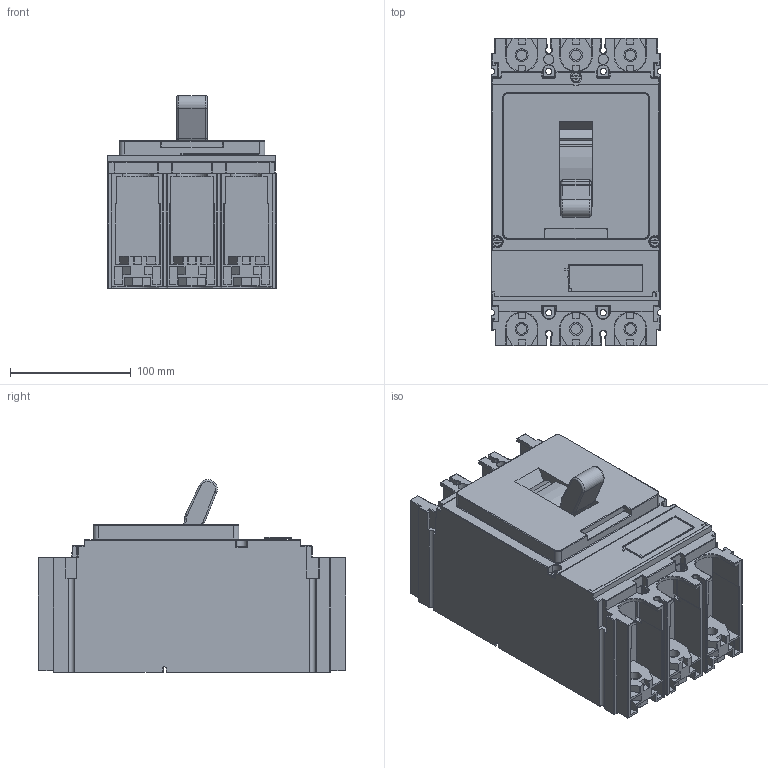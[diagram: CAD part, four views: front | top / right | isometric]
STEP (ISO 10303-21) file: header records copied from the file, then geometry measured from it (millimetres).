
FILE_DESCRIPTION((''),'2;1');
FILE_NAME('C63F37E570_3D-SIMPLIFIED_ASM','2020-12-17T17:15:23',('Prax-26'),('Schneider-Electric'),'CREO PARAMETRIC BY PTC INC, 2018300','CREO PARAMETRIC BY PTC INC, 2018300','');
FILE_SCHEMA(('CONFIG_CONTROL_DESIGN'));
Length unit declared in the file: millimetre
Products named in the file (2): C63F37E570_3D-SIMPLIFIED; C63F37E570_3D-SIMPLIFIED_ASM
Assembly tree (1 placements, depth 2):
  C63F37E570_3D-SIMPLIFIED_ASM
    C63F37E570_3D-SIMPLIFIED
Bounding box: 139.7 x 255 x 159.71 mm (x, y, z)
Volume: 3372319.3 mm3; surface area: 246742.2 mm2
Topology: 2 solids, 2 shells, 1273 faces, 3408 edges, 2183 vertices
Faces by surface type: plane 787, cylinder 391, sphere 42, torus 37, bspline 10, extrusion 6
Entity records: 40844 total; most frequent: CARTESIAN_POINT 8566, ORIENTED_EDGE 6816, DIRECTION 6591, EDGE_CURVE 3408, VECTOR 2567, LINE 2561, VERTEX_POINT 2183, AXIS2_PLACEMENT_3D 2012
